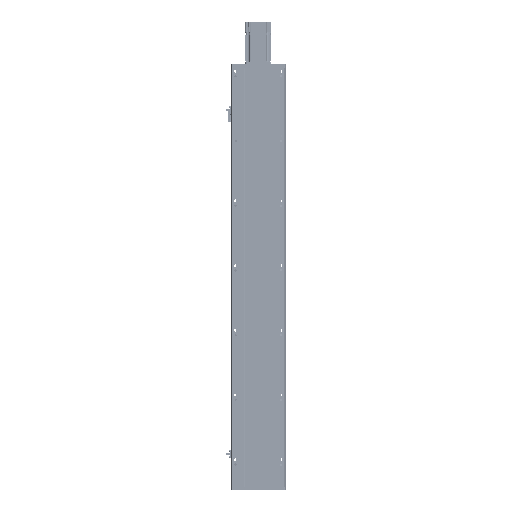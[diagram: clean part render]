
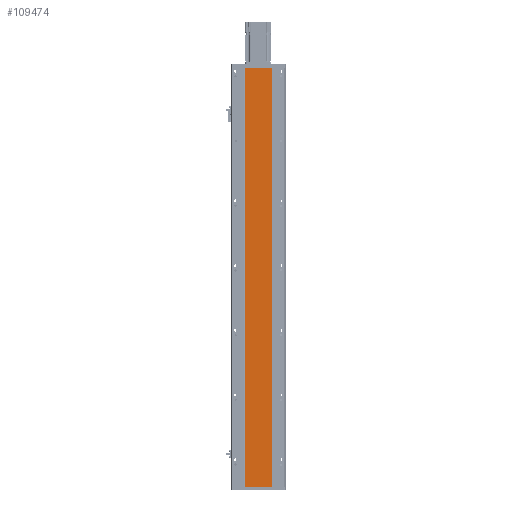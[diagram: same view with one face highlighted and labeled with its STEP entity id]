
A CAD part, front view. The second image highlights one B-rep face of the part: STEP entity #109474.
In plain terms, the highlighted planar face has unit normal (0, -1, 0).
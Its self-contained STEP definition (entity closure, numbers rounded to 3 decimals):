
#1274 = DIRECTION ( 'NONE',  ( 0., -1., 0. ) ) ;
#1786 = ORIENTED_EDGE ( 'NONE', *, *, #75432, .F. ) ;
#3084 = VERTEX_POINT ( 'NONE', #40702 ) ;
#6031 = CARTESIAN_POINT ( 'NONE',  ( -42., 0., 0. ) ) ;
#7395 = FACE_OUTER_BOUND ( 'NONE', #84698, .T. ) ;
#12408 = LINE ( 'NONE', #47343, #99531 ) ;
#14444 = EDGE_CURVE ( 'NONE', #90742, #3084, #97344, .T. ) ;
#16680 = ORIENTED_EDGE ( 'NONE', *, *, #33639, .F. ) ;
#20628 = VECTOR ( 'NONE', #90888, 1000. ) ;
#24899 = AXIS2_PLACEMENT_3D ( 'NONE', #93938, #1274, #60466 ) ;
#33639 = EDGE_CURVE ( 'NONE', #38518, #92618, #58780, .T. ) ;
#36548 = EDGE_CURVE ( 'NONE', #38518, #90742, #12408, .T. ) ;
#38518 = VERTEX_POINT ( 'NONE', #59364 ) ;
#39973 = DIRECTION ( 'NONE',  ( 0., 0., 1. ) ) ;
#40702 = CARTESIAN_POINT ( 'NONE',  ( 42., 0., 0. ) ) ;
#43168 = LINE ( 'NONE', #6031, #20628 ) ;
#47343 = CARTESIAN_POINT ( 'NONE',  ( -42., 0., -1295. ) ) ;
#53350 = CARTESIAN_POINT ( 'NONE',  ( 42., 0., -1295. ) ) ;
#56137 = VECTOR ( 'NONE', #66916, 1000. ) ;
#58780 = LINE ( 'NONE', #92234, #56137 ) ;
#59364 = CARTESIAN_POINT ( 'NONE',  ( -42., 0., -1295. ) ) ;
#60466 = DIRECTION ( 'NONE',  ( 0., 0., -1. ) ) ;
#65099 = CARTESIAN_POINT ( 'NONE',  ( 42., 0., -1295. ) ) ;
#66916 = DIRECTION ( 'NONE',  ( 0., 0., 1. ) ) ;
#72355 = VECTOR ( 'NONE', #39973, 1000. ) ;
#73081 = ORIENTED_EDGE ( 'NONE', *, *, #36548, .T. ) ;
#75432 = EDGE_CURVE ( 'NONE', #92618, #3084, #43168, .T. ) ;
#77011 = PLANE ( 'NONE',  #24899 ) ;
#84698 = EDGE_LOOP ( 'NONE', ( #1786, #16680, #73081, #104209 ) ) ;
#89660 = DIRECTION ( 'NONE',  ( 1., 0., 0. ) ) ;
#90742 = VERTEX_POINT ( 'NONE', #53350 ) ;
#90888 = DIRECTION ( 'NONE',  ( 1., 0., 0. ) ) ;
#92234 = CARTESIAN_POINT ( 'NONE',  ( -42., 0., -1295. ) ) ;
#92618 = VERTEX_POINT ( 'NONE', #105902 ) ;
#93938 = CARTESIAN_POINT ( 'NONE',  ( -42., 0., -1295. ) ) ;
#97344 = LINE ( 'NONE', #65099, #72355 ) ;
#99531 = VECTOR ( 'NONE', #89660, 1000. ) ;
#104209 = ORIENTED_EDGE ( 'NONE', *, *, #14444, .T. ) ;
#105902 = CARTESIAN_POINT ( 'NONE',  ( -42., 0., 0. ) ) ;
#109474 = ADVANCED_FACE ( 'NONE', ( #7395 ), #77011, .T. ) ;
